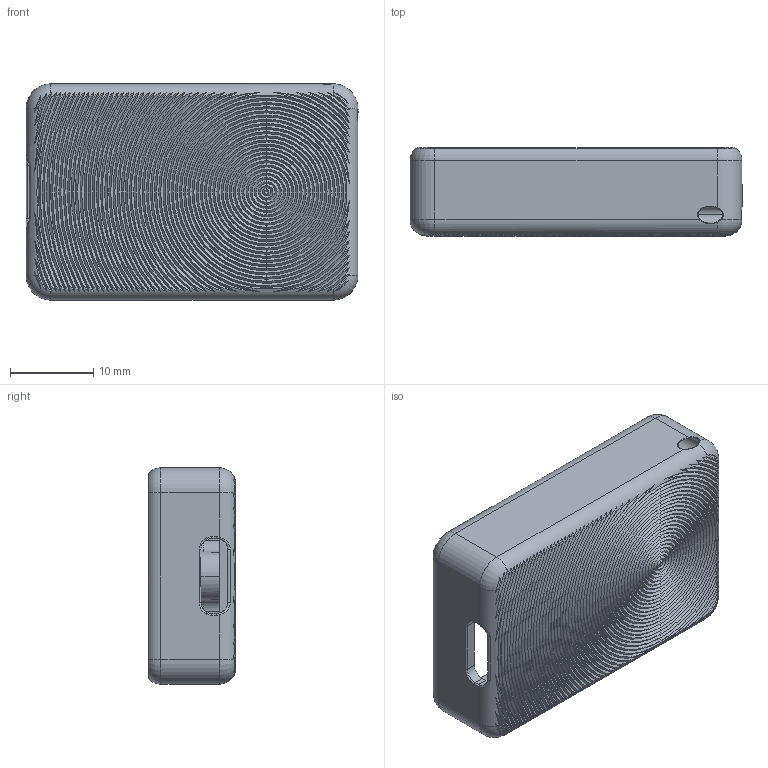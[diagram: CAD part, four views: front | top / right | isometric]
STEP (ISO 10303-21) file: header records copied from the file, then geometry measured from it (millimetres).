
FILE_DESCRIPTION (( 'STEP AP203' ), '1' );
FILE_NAME ('錨璃1-0.5CD恇1.5囀褒.STEP', '2022-12-13T18:26:20', ( 'HHY' ), ( '' ), 'SwSTEP 2.0', 'SolidWorks 2021', '' );
FILE_SCHEMA (( 'CONFIG_CONTROL_DESIGN' ));
Length unit declared in the file: millimetre
Products named in the file (1): 錨璃1-0.5CD恇1.5囀褒
Bounding box: 39.9 x 10.54 x 26 mm (x, y, z)
Volume: 3128.6 mm3; surface area: 4852.1 mm2
Topology: 1 solids, 1 shells, 551 faces, 1455 edges, 921 vertices
Faces by surface type: cone 206, plane 121, cylinder 104, bspline 100, torus 20
Entity records: 24401 total; most frequent: CARTESIAN_POINT 11928, ORIENTED_EDGE 2906, DIRECTION 2156, EDGE_CURVE 1453, VERTEX_POINT 921, AXIS2_PLACEMENT_3D 798, EDGE_LOOP 572, VECTOR 560
